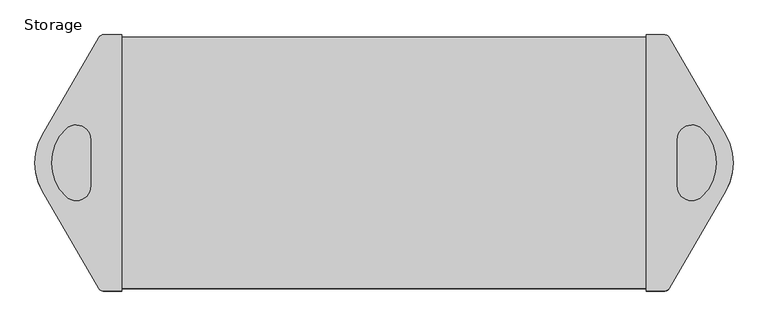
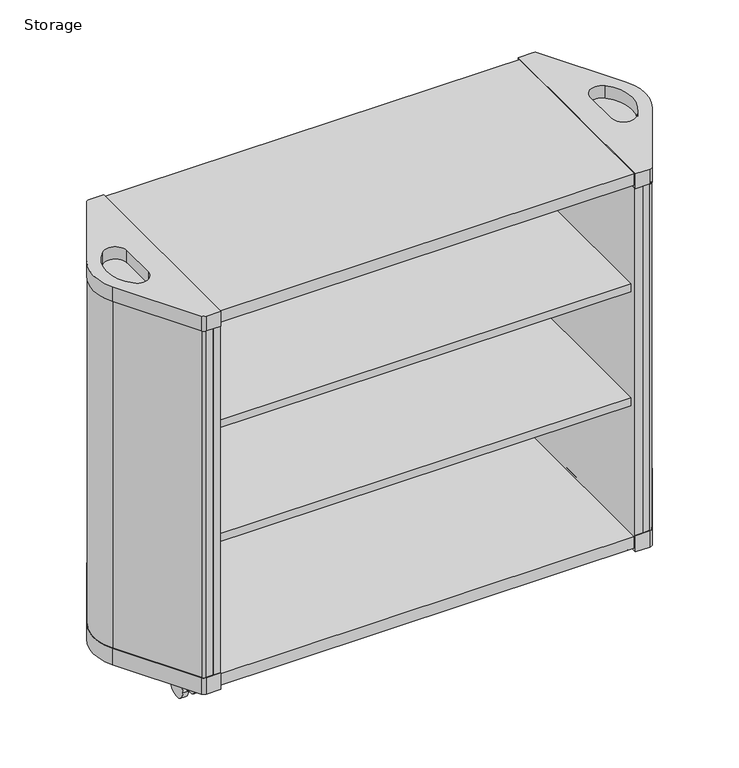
"""IFC4 building model written with IfcOpenShell, lengths in millimetres: furniture geometry, SmithSystem_AM_Storage_Education_Flowform_Mobile_Straight : Storage."""

from ifc_helpers import new_model, si_unit, point, frame, frame_2d, origin, place, context, project, spatial, polyline, circle_curve, trimmed, segment, composite_curve, outline, extrude, source, transform, mapped, element, save
from ifc_brep_helpers import plane_surface, cylinder_surface, revolved_surface, advanced_brep


def storage_578cdf4a(model_context):
    return source(origin(), model_context, "Body", "SolidModel", [
        extrude(outline(composite_curve([segment(trimmed(circle_curve(frame_2d((134.7820195, -171.5072311)), 6.576466), [point((141.3584855, -171.5072311))], [point((128.2055535, -171.5072311))], False, "CARTESIAN"), True, "CONTINUOUS"), segment(trimmed(circle_curve(frame_2d((134.7820195, -171.5072311)), 6.576466), [point((128.2055535, -171.5072311))], [point((141.3584855, -171.5072311))], False, "CARTESIAN"), True, "CONTINUOUS")], self_intersect=False)), frame((0.0, 0.0, 37.9317354), z_axis=(0.0, 0.0, 1.0), x_axis=(1.0, 0.0, 0.0)), (0.0, 0.0, 1.0), 16.5527297),
        extrude(outline(composite_curve([segment(polyline([(-131.1895304, 25.5644515), (-181.9895304, 25.5644515)]), True, "CONTINUOUS"), segment(trimmed(circle_curve(frame_2d((-156.5895304, 25.5644515)), 25.4), [point((-181.9895304, 25.5644515))], [point((-131.1895304, 25.5644515))], False, "CARTESIAN"), True, "CONTINUOUS")], self_intersect=False)), frame((122.9803848, 0.0, 0.0), z_axis=(1.0, 0.0, 0.0), x_axis=(0.0, 1.0, 0.0)), (0.0, 0.0, 1.0), 21.3732957),
        extrude(outline(composite_curve([segment(trimmed(circle_curve(frame_2d((-156.5895304, 25.5644515)), 25.4), [point((-181.9895304, 25.5644515))], [point((-131.1895304, 25.5644515))], False, "CARTESIAN"), True, "CONTINUOUS"), segment(trimmed(circle_curve(frame_2d((-156.5895304, 25.5644515)), 25.4), [point((-131.1895304, 25.5644515))], [point((-181.9895304, 25.5644515))], False, "CARTESIAN"), True, "CONTINUOUS")], self_intersect=False)), frame((112.6050169, 0.0, 0.0), z_axis=(1.0, 0.0, 0.0), x_axis=(0.0, 1.0, 0.0)), (0.0, 0.0, 1.0), 12.6986635),
        extrude(outline(composite_curve([segment(trimmed(circle_curve(frame_2d((-156.5895304, 25.5644515)), 25.4), [point((-181.9895304, 25.5644515))], [point((-131.1895304, 25.5644515))], False, "CARTESIAN"), True, "CONTINUOUS"), segment(trimmed(circle_curve(frame_2d((-156.5895304, 25.5644515)), 25.4), [point((-131.1895304, 25.5644515))], [point((-181.9895304, 25.5644515))], False, "CARTESIAN"), True, "CONTINUOUS")], self_intersect=False)), frame((144.3536805, 0.0, 0.0), z_axis=(1.0, 0.0, 0.0), x_axis=(0.0, 1.0, 0.0)), (0.0, 0.0, 1.0), 12.7259148),
        extrude(outline(composite_curve([segment(trimmed(circle_curve(frame_2d((1207.7844849, -171.5072311)), 6.576466), [point((1201.2080189, -171.5072311))], [point((1214.3609509, -171.5072311))], False, "CARTESIAN"), True, "CONTINUOUS"), segment(trimmed(circle_curve(frame_2d((1207.7844849, -171.5072311)), 6.576466), [point((1214.3609509, -171.5072311))], [point((1201.2080189, -171.5072311))], False, "CARTESIAN"), True, "CONTINUOUS")], self_intersect=False)), frame((0.0, 0.0, 37.9317354), z_axis=(0.0, 0.0, 1.0), x_axis=(1.0, 0.0, 0.0)), (0.0, 0.0, 1.0), 16.5527297),
        extrude(outline(composite_curve([segment(polyline([(-131.1895304, 25.5644515), (-181.9895304, 25.5644515)]), True, "CONTINUOUS"), segment(trimmed(circle_curve(frame_2d((-156.5895304, 25.5644515)), 25.4), [point((-181.9895304, 25.5644515))], [point((-131.1895304, 25.5644515))], False, "CARTESIAN"), True, "CONTINUOUS")], self_intersect=False)), frame((1198.212824, 0.0, 0.0), z_axis=(1.0, 0.0, 0.0), x_axis=(0.0, 1.0, 0.0)), (0.0, 0.0, 1.0), 21.3732957),
        extrude(outline(composite_curve([segment(trimmed(circle_curve(frame_2d((-156.5895304, 25.5644515)), 25.4), [point((-181.9895304, 25.5644515))], [point((-131.1895304, 25.5644515))], False, "CARTESIAN"), True, "CONTINUOUS"), segment(trimmed(circle_curve(frame_2d((-156.5895304, 25.5644515)), 25.4), [point((-131.1895304, 25.5644515))], [point((-181.9895304, 25.5644515))], False, "CARTESIAN"), True, "CONTINUOUS")], self_intersect=False)), frame((1217.262824, 0.0, 0.0), z_axis=(1.0, 0.0, 0.0), x_axis=(0.0, 1.0, 0.0)), (0.0, 0.0, 1.0), 12.6986635),
        extrude(outline(composite_curve([segment(trimmed(circle_curve(frame_2d((-156.5895304, 25.5644515)), 25.4), [point((-181.9895304, 25.5644515))], [point((-131.1895304, 25.5644515))], False, "CARTESIAN"), True, "CONTINUOUS"), segment(trimmed(circle_curve(frame_2d((-156.5895304, 25.5644515)), 25.4), [point((-131.1895304, 25.5644515))], [point((-181.9895304, 25.5644515))], False, "CARTESIAN"), True, "CONTINUOUS")], self_intersect=False)), frame((1185.4869092, 0.0, 0.0), z_axis=(1.0, 0.0, 0.0), x_axis=(0.0, 1.0, 0.0)), (0.0, 0.0, 1.0), 12.7259148),
        extrude(outline(composite_curve([segment(trimmed(circle_curve(frame_2d((1207.7844849, 171.5072311)), 6.576466), [point((1201.2080189, 171.5072311))], [point((1214.3609509, 171.5072311))], False, "CARTESIAN"), True, "CONTINUOUS"), segment(trimmed(circle_curve(frame_2d((1207.7844849, 171.5072311)), 6.576466), [point((1214.3609509, 171.5072311))], [point((1201.2080189, 171.5072311))], False, "CARTESIAN"), True, "CONTINUOUS")], self_intersect=False)), frame((0.0, 0.0, 37.9317354), z_axis=(0.0, 0.0, 1.0), x_axis=(1.0, 0.0, 0.0)), (0.0, 0.0, 1.0), 16.5527297),
        extrude(outline(composite_curve([segment(trimmed(circle_curve(frame_2d((156.5895304, 25.5644515)), 25.4), [point((131.1895304, 25.5644515))], [point((181.9895304, 25.5644515))], False, "CARTESIAN"), True, "CONTINUOUS"), segment(polyline([(181.9895304, 25.5644515), (131.1895304, 25.5644515)]), True, "CONTINUOUS")], self_intersect=False)), frame((1198.212824, 0.0, 0.0), z_axis=(1.0, 0.0, 0.0), x_axis=(0.0, 1.0, 0.0)), (0.0, 0.0, 1.0), 21.3732957),
        extrude(outline(composite_curve([segment(trimmed(circle_curve(frame_2d((156.5895304, 25.5644515)), 25.4), [point((181.9895304, 25.5644515))], [point((131.1895304, 25.5644515))], False, "CARTESIAN"), True, "CONTINUOUS"), segment(trimmed(circle_curve(frame_2d((156.5895304, 25.5644515)), 25.4), [point((131.1895304, 25.5644515))], [point((181.9895304, 25.5644515))], False, "CARTESIAN"), True, "CONTINUOUS")], self_intersect=False)), frame((1217.262824, 0.0, 0.0), z_axis=(1.0, 0.0, 0.0), x_axis=(0.0, 1.0, 0.0)), (0.0, 0.0, 1.0), 12.6986635),
        extrude(outline(composite_curve([segment(trimmed(circle_curve(frame_2d((156.5895304, 25.5644515)), 25.4), [point((181.9895304, 25.5644515))], [point((131.1895304, 25.5644515))], False, "CARTESIAN"), True, "CONTINUOUS"), segment(trimmed(circle_curve(frame_2d((156.5895304, 25.5644515)), 25.4), [point((131.1895304, 25.5644515))], [point((181.9895304, 25.5644515))], False, "CARTESIAN"), True, "CONTINUOUS")], self_intersect=False)), frame((1185.4869092, 0.0, 0.0), z_axis=(1.0, 0.0, 0.0), x_axis=(0.0, 1.0, 0.0)), (0.0, 0.0, 1.0), 12.7259148),
        extrude(outline(composite_curve([segment(trimmed(circle_curve(frame_2d((133.9640518, 171.5072311)), 6.576466), [point((127.3875858, 171.5072311))], [point((140.5405178, 171.5072311))], False, "CARTESIAN"), True, "CONTINUOUS"), segment(trimmed(circle_curve(frame_2d((133.9640518, 171.5072311)), 6.576466), [point((140.5405178, 171.5072311))], [point((127.3875858, 171.5072311))], False, "CARTESIAN"), True, "CONTINUOUS")], self_intersect=False)), frame((0.0, 0.0, 37.9317354), z_axis=(0.0, 0.0, 1.0), x_axis=(1.0, 0.0, 0.0)), (0.0, 0.0, 1.0), 16.5527297),
        extrude(outline(composite_curve([segment(trimmed(circle_curve(frame_2d((156.5895304, 25.5644515)), 25.4), [point((131.1895304, 25.5644515))], [point((181.9895304, 25.5644515))], False, "CARTESIAN"), True, "CONTINUOUS"), segment(polyline([(181.9895304, 25.5644515), (131.1895304, 25.5644515)]), True, "CONTINUOUS")], self_intersect=False)), frame((124.3923909, 0.0, 0.0), z_axis=(1.0, 0.0, 0.0), x_axis=(0.0, 1.0, 0.0)), (0.0, 0.0, 1.0), 21.3732957),
        extrude(outline(composite_curve([segment(trimmed(circle_curve(frame_2d((156.5895304, 25.5644515)), 25.4), [point((181.9895304, 25.5644515))], [point((131.1895304, 25.5644515))], False, "CARTESIAN"), True, "CONTINUOUS"), segment(trimmed(circle_curve(frame_2d((156.5895304, 25.5644515)), 25.4), [point((131.1895304, 25.5644515))], [point((181.9895304, 25.5644515))], False, "CARTESIAN"), True, "CONTINUOUS")], self_intersect=False)), frame((143.4423909, 0.0, 0.0), z_axis=(1.0, 0.0, 0.0), x_axis=(0.0, 1.0, 0.0)), (0.0, 0.0, 1.0), 12.6986635),
        extrude(outline(composite_curve([segment(trimmed(circle_curve(frame_2d((156.5895304, 25.5644515)), 25.4), [point((181.9895304, 25.5644515))], [point((131.1895304, 25.5644515))], False, "CARTESIAN"), True, "CONTINUOUS"), segment(trimmed(circle_curve(frame_2d((156.5895304, 25.5644515)), 25.4), [point((131.1895304, 25.5644515))], [point((181.9895304, 25.5644515))], False, "CARTESIAN"), True, "CONTINUOUS")], self_intersect=False)), frame((111.6664761, 0.0, 0.0), z_axis=(1.0, 0.0, 0.0), x_axis=(0.0, 1.0, 0.0)), (0.0, 0.0, 1.0), 12.7259148),
        extrude(outline(polyline([(1212.6341417, 241.3001326), (1212.6341417, 228.5999693), (128.8461125, 228.5999693), (128.8461125, 241.3001326), (1212.6341417, 241.3001326)])), frame((0.0, 0.0, 90.6031906), z_axis=(0.0, 0.0, 1.0), x_axis=(1.0, 0.0, 0.0)), (0.0, 0.0, 1.0), 902.2719612),
        extrude(outline(polyline([(167.0369457, 244.840177), (167.0369457, -244.88987), (149.7853176, -244.88987), (149.7853176, 244.840177), (167.0369457, 244.840177)])), frame((0.0, 0.0, 90.8895346), z_axis=(0.0, 0.0, 1.0), x_axis=(1.0, 0.0, 0.0)), (0.0, 0.0, 1.0), 895.6982103),
        extrude(outline(polyline([(1173.5217743, 244.840177), (1192.7811868, 244.840177), (1192.7811868, -244.88987), (1173.5217743, -244.88987), (1173.5217743, 244.840177)])), frame((0.0, 0.0, 90.8895346), z_axis=(0.0, 0.0, 1.0), x_axis=(1.0, 0.0, 0.0)), (0.0, 0.0, 1.0), 895.6982103),
        extrude(outline(polyline([(1212.6341417, 228.5999693), (1212.6341417, -228.6000307), (129.9323628, -228.6000307), (129.9323628, 228.5999693), (1212.6341417, 228.5999693)])), frame((0.0, 0.0, 712.124338), z_axis=(0.0, 0.0, 1.0), x_axis=(1.0, 0.0, 0.0)), (0.0, 0.0, 1.0), 20.2438225),
        extrude(outline(polyline([(1212.6341417, 228.5999693), (1212.6341417, -228.6000307), (129.9323628, -228.6000307), (129.9323628, 228.5999693), (1212.6341417, 228.5999693)])), frame((0.0, 0.0, 420.024338), z_axis=(0.0, 0.0, 1.0), x_axis=(1.0, 0.0, 0.0)), (0.0, 0.0, 1.0), 20.2438225),
        extrude(outline(composite_curve([segment(polyline([(16.0272634, 53.34), (124.0236202, 240.395177)]), True, "CONTINUOUS"), segment(trimmed(circle_curve(frame_2d((131.7225861, 235.950177)), 8.89), [point((124.0236202, 240.395177))], [point((131.7225861, 244.840177))], False, "CARTESIAN"), True, "CONTINUOUS"), segment(polyline([(131.7225861, 244.840177), (149.7853176, 244.840177), (149.7853176, -244.840177), (131.7225861, -244.840177)]), True, "CONTINUOUS"), segment(trimmed(circle_curve(frame_2d((131.7225861, -235.950177)), 8.89), [point((131.7225861, -244.840177))], [point((124.0236202, -240.395177))], False, "CARTESIAN"), True, "CONTINUOUS"), segment(polyline([(124.0236202, -240.395177), (16.0272634, -53.34)]), True, "CONTINUOUS"), segment(trimmed(circle_curve(frame_2d((108.4148535, 0.0)), 106.68), [point((16.0272634, -53.34))], [point((16.0272634, 53.34))], False, "CARTESIAN"), True, "CONTINUOUS")], self_intersect=False)), frame((0.0, 0.0, 96.3183094), z_axis=(0.0, 0.0, 1.0), x_axis=(1.0, 0.0, 0.0)), (0.0, 0.0, 1.0), 890.2694355),
        extrude(outline(composite_curve([segment(trimmed(circle_curve(frame_2d((1232.1438666, 0.0)), 106.68), [point((1324.5314566, 53.34))], [point((1324.5314566, -53.34))], False, "CARTESIAN"), True, "CONTINUOUS"), segment(polyline([(1324.5314566, -53.34), (1216.5350999, -240.395177)]), True, "CONTINUOUS"), segment(trimmed(circle_curve(frame_2d((1208.836134, -235.950177)), 8.89), [point((1216.5350999, -240.395177))], [point((1208.836134, -244.840177))], False, "CARTESIAN"), True, "CONTINUOUS"), segment(polyline([(1208.836134, -244.840177), (1192.7853532, -244.840177), (1192.7853532, 244.840177), (1208.836134, 244.840177)]), True, "CONTINUOUS"), segment(trimmed(circle_curve(frame_2d((1208.836134, 235.950177)), 8.89), [point((1208.836134, 244.840177))], [point((1216.5350999, 240.395177))], False, "CARTESIAN"), True, "CONTINUOUS"), segment(polyline([(1216.5350999, 240.395177), (1324.5314566, 53.34)]), True, "CONTINUOUS")], self_intersect=False)), frame((0.0, 0.0, 96.3183094), z_axis=(0.0, 0.0, 1.0), x_axis=(1.0, 0.0, 0.0)), (0.0, 0.0, 1.0), 890.2694355),
        extrude(outline(polyline([(1205.7244718, 241.3001326), (1205.7244718, -241.2714837), (128.8461125, -241.2714837), (128.8461125, 241.3001326), (1205.7244718, 241.3001326)])), frame((0.0, 0.0, 992.8751518), z_axis=(0.0, 0.0, 1.0), x_axis=(1.0, 0.0, 0.0)), (0.0, 0.0, 1.0), 29.8768827),
        extrude(outline(polyline([(1205.7244718, 241.3001326), (1205.7244718, -241.2714837), (128.8461125, -241.2714837), (128.8461125, 241.3001326), (1205.7244718, 241.3001326)])), frame((0.0, 0.0, 61.0126518), z_axis=(0.0, 0.0, 1.0), x_axis=(1.0, 0.0, 0.0)), (0.0, 0.0, 1.0), 29.8768827),
        advanced_brep(
        [(167.0369457, -246.110177, 1024.6124588), (167.0369457, 246.110177, 1024.6124588), (131.7225861, 246.110177, 1024.6124588), (122.9237679, 241.030177, 1024.6124588), (14.9274112, 53.975, 1024.6124588), (14.9274112, -53.975, 1024.6124588), (122.9237679, -241.030177, 1024.6124588), (131.7225861, -246.110177, 1024.6124588), (107.4810818, 45.0001045, 1024.6124588), (107.4810818, -44.477882, 1024.6124588), (60.2929233, -64.7300915, 1024.6124588), (60.3982884, 65.252305, 1024.6124588), (167.0369457, -246.110177, 986.5877449), (131.7225861, -246.110177, 986.5877449), (122.9237679, -241.030177, 986.5877449), (14.9274112, -53.975, 986.5877449), (14.9274112, 53.975, 986.5877449), (122.9237679, 241.030177, 986.5877449), (131.7225861, 246.110177, 986.5877449), (167.0369457, 246.110177, 986.5877449), (107.4810818, -44.477882, 992.8751518), (107.4810818, 45.0001045, 992.8751518), (60.3982884, 65.252305, 992.8751518), (60.2929233, -64.7300915, 992.8751518)],
        [
            (0, 1),
            (1, 2),
            (2, 3, circle_curve(frame((131.7225861, 235.950177, 1024.6124588), z_axis=(0.0, 0.0, 1.0), x_axis=(1.0, 0.0, 0.0)), 10.16)),
            (3, 4),
            (4, 5, circle_curve(frame((108.4148535, 0.0, 1024.6124588), z_axis=(0.0, 0.0, 1.0), x_axis=(1.0, 0.0, 0.0)), 107.95)),
            (5, 6),
            (6, 7, circle_curve(frame((131.7225861, -235.950177, 1024.6124588), z_axis=(0.0, 0.0, 1.0), x_axis=(1.0, 0.0, 0.0)), 10.16)),
            (7, 0),
            (8, 9),
            (9, 10, circle_curve(frame((79.5410818, -44.477882, 1024.6124588), z_axis=(0.0, 0.0, -1.0), x_axis=(-1.0, 0.0, 0.0)), 27.94)),
            (10, 11, circle_curve(frame((122.0145184, 0.2111172, 1024.6124588), z_axis=(0.0, 0.0, -1.0), x_axis=(-1.0, 0.0, 0.0)), 89.5930572)),
            (11, 8, circle_curve(frame((79.5840427, 45.0001045, 1024.6124588), z_axis=(0.0, 0.0, -1.0), x_axis=(-1.0, 0.0, 0.0)), 27.8970391)),
            (12, 13),
            (13, 14, circle_curve(frame((131.7225861, -235.950177, 986.5877449), z_axis=(0.0, 0.0, -1.0), x_axis=(1.0, 0.0, 0.0)), 10.16)),
            (14, 15),
            (15, 16, circle_curve(frame((108.4148535, 0.0, 986.5877449), z_axis=(0.0, 0.0, -1.0), x_axis=(1.0, 0.0, 0.0)), 107.95)),
            (16, 17),
            (17, 18, circle_curve(frame((131.7225861, 235.950177, 986.5877449), z_axis=(0.0, 0.0, -1.0), x_axis=(1.0, 0.0, 0.0)), 10.16)),
            (18, 19),
            (19, 12),
            (0, 12),
            (19, 1),
            (18, 2),
            (17, 3),
            (16, 4),
            (15, 5),
            (14, 6),
            (13, 7),
            (20, 21),
            (21, 22, circle_curve(frame((79.5840427, 45.0001045, 992.8751518), z_axis=(0.0, 0.0, 1.0), x_axis=(-1.0, 0.0, 0.0)), 27.8970391)),
            (22, 23, circle_curve(frame((122.0145184, 0.2111172, 992.8751518), z_axis=(0.0, 0.0, 1.0), x_axis=(-1.0, 0.0, 0.0)), 89.5930572)),
            (23, 20, circle_curve(frame((79.5410818, -44.477882, 992.8751518), z_axis=(0.0, 0.0, 1.0), x_axis=(-1.0, 0.0, 0.0)), 27.94)),
            (20, 9),
            (8, 21),
            (11, 22),
            (10, 23),
        ],
        [
            plane_surface(frame((167.0369457, 244.8027471, 1024.6124588), z_axis=(0.0, 0.0, 1.0), x_axis=(0.0, 1.0, 0.0))),
            plane_surface(frame((167.0369457, 244.8027471, 986.5877449), z_axis=(0.0, 0.0, -1.0), x_axis=(0.0, -1.0, 0.0))),
            plane_surface(frame((167.0369457, -246.110177, 1024.6124588), z_axis=(1.0, 0.0, 0.0), x_axis=(0.0, 0.0, -1.0))),
            plane_surface(frame((167.0369457, 246.110177, 1024.6124588), z_axis=(0.0, 1.0, 0.0), x_axis=(0.0, 0.0, -1.0))),
            cylinder_surface(frame((131.7225861, 235.950177, 986.5877449), z_axis=(0.0, 0.0, 1.0), x_axis=(1.0, 0.0, 0.0)), 10.16),
            plane_surface(frame((122.9237679, 241.030177, 1024.6124588), z_axis=(-0.8660254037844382, 0.500000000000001, 0.0), x_axis=(0.0, 0.0, -1.0))),
            cylinder_surface(frame((108.4148535, 0.0, 986.5877449), z_axis=(0.0, 0.0, 1.0), x_axis=(1.0, 0.0, 0.0)), 107.95),
            plane_surface(frame((14.9274112, -53.975, 1024.6124588), z_axis=(-0.8660254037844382, -0.500000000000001, 0.0), x_axis=(0.0, 0.0, -1.0))),
            cylinder_surface(frame((131.7225861, -235.950177, 986.5877449), z_axis=(0.0, 0.0, 1.0), x_axis=(1.0, 0.0, 0.0)), 10.16),
            plane_surface(frame((131.7225861, -246.110177, 1024.6124588), z_axis=(0.0, -1.0, 0.0), x_axis=(0.0, 0.0, -1.0))),
            plane_surface(frame((1288.9577382, -44.477882, 992.8751518), z_axis=(0.0, 0.0, 1.0), x_axis=(0.0, -1.0, 0.0))),
            plane_surface(frame((107.4810818, -44.477882, 1061.2441284), z_axis=(-1.0, 0.0, 0.0), x_axis=(0.0, 0.0, -1.0))),
            revolved_surface(polyline([(51.6870036, 45.0001045, 1024.6124588), (51.6870036, 45.0001045, 992.8751518)]), (79.5840427, 45.0001045, 0.0), (0.0, 0.0, 1.0)),
            revolved_surface(polyline([(32.421461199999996, 0.2111172, 1024.6124588), (32.421461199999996, 0.2111172, 992.8751518)]), (122.0145184, 0.2111172, 0.0), (0.0, 0.0, 1.0)),
            revolved_surface(polyline([(51.6010818, -44.477882, 1024.6124588), (51.6010818, -44.477882, 992.8751518)]), (79.5410818, -44.477882, 0.0), (0.0, 0.0, 1.0)),
        ],
        [
            (0, [[1, 2, 3, 4, 5, 6, 7, 8], [9, 10, 11, 12]]),
            (1, [[13, 14, 15, 16, 17, 18, 19, 20]]),
            (2, [[-1, 21, -20, 22]]),
            (3, [[-2, -22, -19, 23]]),
            (4, [[-3, -23, -18, 24]]),
            (5, [[-4, -24, -17, 25]]),
            (6, [[-5, -25, -16, 26]]),
            (7, [[-6, -26, -15, 27]]),
            (8, [[-7, -27, -14, 28]]),
            (9, [[-8, -28, -13, -21]]),
            (10, [[29, 30, 31, 32]]),
            (11, [[-29, 33, -9, 34]]),
            (12, [[-30, -34, -12, 35]]),
            (13, [[-31, -35, -11, 36]]),
            (14, [[-32, -36, -10, -33]]),
        ],
    ),
        advanced_brep(
        [(1173.5217743, -246.110177, 1024.6124588), (1208.836134, -246.110177, 1024.6124588), (1217.6349521, -241.030177, 1024.6124588), (1325.6313089, -53.975, 1024.6124588), (1325.6313089, 53.975, 1024.6124588), (1217.6349521, 241.030177, 1024.6124588), (1208.836134, 246.110177, 1024.6124588), (1173.5217743, 246.110177, 1024.6124588), (1280.2658967, -64.7300915, 1024.6124588), (1233.0777382, -44.477882, 1024.6124588), (1233.0777382, 45.0001045, 1024.6124588), (1280.1605315, 65.252305, 1024.6124588), (1173.5217743, -246.110177, 986.5877449), (1173.5217743, 246.110177, 986.5877449), (1208.836134, 246.110177, 986.5877449), (1217.6349521, 241.030177, 986.5877449), (1325.6313089, 53.975, 986.5877449), (1325.6313089, -53.975, 986.5877449), (1217.6349521, -241.030177, 986.5877449), (1208.836134, -246.110177, 986.5877449), (1233.0777382, -44.477882, 992.8751518), (1280.2658967, -64.7300915, 992.8751518), (1280.1605315, 65.252305, 992.8751518), (1233.0777382, 45.0001045, 992.8751518)],
        [
            (0, 1),
            (1, 2, circle_curve(frame((1208.836134, -235.950177, 1024.6124588), z_axis=(0.0, 0.0, 1.0), x_axis=(-1.0, 0.0, 0.0)), 10.16)),
            (2, 3),
            (3, 4, circle_curve(frame((1232.1438666, 0.0, 1024.6124588), z_axis=(0.0, 0.0, 1.0), x_axis=(-1.0, 0.0, 0.0)), 107.95)),
            (4, 5),
            (5, 6, circle_curve(frame((1208.836134, 235.950177, 1024.6124588), z_axis=(0.0, 0.0, 1.0), x_axis=(-1.0, 0.0, 0.0)), 10.16)),
            (6, 7),
            (7, 0),
            (8, 9, circle_curve(frame((1261.0177382, -44.477882, 1024.6124588), z_axis=(0.0, 0.0, -1.0), x_axis=(1.0, 0.0, 0.0)), 27.94)),
            (9, 10),
            (10, 11, circle_curve(frame((1260.9747773, 45.0001045, 1024.6124588), z_axis=(0.0, 0.0, -1.0), x_axis=(1.0, 0.0, 0.0)), 27.8970391)),
            (11, 8, circle_curve(frame((1218.5443016, 0.2111172, 1024.6124588), z_axis=(0.0, 0.0, -1.0), x_axis=(1.0, 0.0, 0.0)), 89.5930572)),
            (12, 13),
            (13, 14),
            (14, 15, circle_curve(frame((1208.836134, 235.950177, 986.5877449), z_axis=(0.0, 0.0, -1.0), x_axis=(-1.0, 0.0, 0.0)), 10.16)),
            (15, 16),
            (16, 17, circle_curve(frame((1232.1438666, 0.0, 986.5877449), z_axis=(0.0, 0.0, -1.0), x_axis=(-1.0, 0.0, 0.0)), 107.95)),
            (17, 18),
            (18, 19, circle_curve(frame((1208.836134, -235.950177, 986.5877449), z_axis=(0.0, 0.0, -1.0), x_axis=(-1.0, 0.0, 0.0)), 10.16)),
            (19, 12),
            (0, 12),
            (19, 1),
            (18, 2),
            (17, 3),
            (16, 4),
            (15, 5),
            (14, 6),
            (13, 7),
            (20, 21, circle_curve(frame((1261.0177382, -44.477882, 992.8751518), z_axis=(0.0, 0.0, 1.0), x_axis=(1.0, 0.0, 0.0)), 27.94)),
            (21, 22, circle_curve(frame((1218.5443016, 0.2111172, 992.8751518), z_axis=(0.0, 0.0, 1.0), x_axis=(1.0, 0.0, 0.0)), 89.5930572)),
            (22, 23, circle_curve(frame((1260.9747773, 45.0001045, 992.8751518), z_axis=(0.0, 0.0, 1.0), x_axis=(1.0, 0.0, 0.0)), 27.8970391)),
            (23, 20),
            (20, 9),
            (8, 21),
            (11, 22),
            (10, 23),
        ],
        [
            plane_surface(frame((167.0369457, 244.8027471, 1024.6124588), z_axis=(0.0, 0.0, 1.0), x_axis=(0.0, 1.0, 0.0))),
            plane_surface(frame((167.0369457, 244.8027471, 986.5877449), z_axis=(0.0, 0.0, -1.0), x_axis=(0.0, -1.0, 0.0))),
            plane_surface(frame((1173.5217743, -246.110177, 1024.6124588), z_axis=(0.0, -1.0, 0.0), x_axis=(0.0, 0.0, -1.0))),
            cylinder_surface(frame((1208.836134, -235.950177, 0.0), z_axis=(0.0, 0.0, 1.0), x_axis=(-1.0, 0.0, 0.0)), 10.16),
            plane_surface(frame((1217.6349521, -241.030177, 1024.6124588), z_axis=(0.866025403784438, -0.5000000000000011, 0.0), x_axis=(0.0, 0.0, -1.0))),
            cylinder_surface(frame((1232.1438666, 0.0, 0.0), z_axis=(0.0, 0.0, 1.0), x_axis=(-1.0, 0.0, 0.0)), 107.95),
            plane_surface(frame((1325.6313089, 53.975, 1024.6124588), z_axis=(0.8660254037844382, 0.5000000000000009, 0.0), x_axis=(0.0, 0.0, -1.0))),
            cylinder_surface(frame((1208.836134, 235.950177, 0.0), z_axis=(0.0, 0.0, 1.0), x_axis=(-1.0, 0.0, 0.0)), 10.16),
            plane_surface(frame((1208.836134, 246.110177, 1024.6124588), z_axis=(0.0, 1.0, 0.0), x_axis=(0.0, 0.0, -1.0))),
            plane_surface(frame((1173.5217743, 246.110177, 1024.6124588), z_axis=(-1.0, 0.0, 0.0), x_axis=(0.0, 0.0, -1.0))),
            plane_surface(frame((1288.9577382, -44.477882, 992.8751518), z_axis=(0.0, 0.0, 1.0), x_axis=(0.0, -1.0, 0.0))),
            revolved_surface(polyline([(1288.9577382, -44.477882, 1024.6124588), (1288.9577382, -44.477882, 992.8751518)]), (1261.0177382, -44.477882, 992.8751518), (0.0, 0.0, 1.0)),
            revolved_surface(polyline([(1308.1373588, 0.2111172, 1024.6124588), (1308.1373588, 0.2111172, 992.8751518)]), (1218.5443016, 0.2111172, 992.8751518), (0.0, 0.0, 1.0)),
            revolved_surface(polyline([(1288.8718164, 45.0001045, 1024.6124588), (1288.8718164, 45.0001045, 992.8751518)]), (1260.9747773, 45.0001045, 992.8751518), (0.0, 0.0, 1.0)),
            plane_surface(frame((1233.0777382, 45.0001045, 1061.2441284), z_axis=(1.0, 0.0, 0.0), x_axis=(0.0, 0.0, -1.0))),
        ],
        [
            (0, [[1, 2, 3, 4, 5, 6, 7, 8], [9, 10, 11, 12]]),
            (1, [[13, 14, 15, 16, 17, 18, 19, 20]]),
            (2, [[-1, 21, -20, 22]]),
            (3, [[-2, -22, -19, 23]]),
            (4, [[-3, -23, -18, 24]]),
            (5, [[-4, -24, -17, 25]]),
            (6, [[-5, -25, -16, 26]]),
            (7, [[-6, -26, -15, 27]]),
            (8, [[-7, -27, -14, 28]]),
            (9, [[-8, -28, -13, -21]]),
            (10, [[29, 30, 31, 32]]),
            (11, [[-29, 33, -9, 34]]),
            (12, [[-30, -34, -12, 35]]),
            (13, [[-31, -35, -11, 36]]),
            (14, [[-32, -36, -10, -33]]),
        ],
    ),
        extrude(outline(composite_curve([segment(polyline([(167.0369457, -246.110177), (131.7225861, -246.110177)]), True, "CONTINUOUS"), segment(trimmed(circle_curve(frame_2d((131.7225861, -235.950177)), 10.16), [point((131.7225861, -246.110177))], [point((122.9237679, -241.030177))], False, "CARTESIAN"), True, "CONTINUOUS"), segment(polyline([(122.9237679, -241.030177), (14.9274112, -53.975)]), True, "CONTINUOUS"), segment(trimmed(circle_curve(frame_2d((108.4148535, 0.0)), 107.95), [point((14.9274112, -53.975))], [point((14.9274112, 53.975))], False, "CARTESIAN"), True, "CONTINUOUS"), segment(polyline([(14.9274112, 53.975), (122.9237679, 241.030177)]), True, "CONTINUOUS"), segment(trimmed(circle_curve(frame_2d((131.7225861, 235.950177)), 10.16), [point((122.9237679, 241.030177))], [point((131.7225861, 246.110177))], False, "CARTESIAN"), True, "CONTINUOUS"), segment(polyline([(131.7225861, 246.110177), (167.0369457, 246.110177), (167.0369457, -246.110177)]), True, "CONTINUOUS")], self_intersect=False)), frame((0.0, 0.0, 54.484465), z_axis=(0.0, 0.0, 1.0), x_axis=(1.0, 0.0, 0.0)), (0.0, 0.0, 1.0), 41.8338443),
        extrude(outline(composite_curve([segment(polyline([(1173.5217743, -246.110177), (1173.5217743, 246.110177), (1208.836134, 246.110177)]), True, "CONTINUOUS"), segment(trimmed(circle_curve(frame_2d((1208.836134, 235.950177)), 10.16), [point((1208.836134, 246.110177))], [point((1217.6349521, 241.030177))], False, "CARTESIAN"), True, "CONTINUOUS"), segment(polyline([(1217.6349521, 241.030177), (1325.6313089, 53.975)]), True, "CONTINUOUS"), segment(trimmed(circle_curve(frame_2d((1232.1438666, 0.0)), 107.95), [point((1325.6313089, 53.975))], [point((1325.6313089, -53.975))], False, "CARTESIAN"), True, "CONTINUOUS"), segment(polyline([(1325.6313089, -53.975), (1217.6349521, -241.030177)]), True, "CONTINUOUS"), segment(trimmed(circle_curve(frame_2d((1208.836134, -235.950177)), 10.16), [point((1217.6349521, -241.030177))], [point((1208.836134, -246.110177))], False, "CARTESIAN"), True, "CONTINUOUS"), segment(polyline([(1208.836134, -246.110177), (1173.5217743, -246.110177)]), True, "CONTINUOUS")], self_intersect=False)), frame((0.0, 0.0, 54.484465), z_axis=(0.0, 0.0, 1.0), x_axis=(1.0, 0.0, 0.0)), (0.0, 0.0, 1.0), 41.8338443),
    ])


if __name__ == "__main__":
    model = new_model("IFC4")
    model_context = context("Model", 3, world=origin())
    ifc_project = project(units=[si_unit("LENGTHUNIT", "METRE", prefix="MILLI")], contexts=[model_context])
    site = spatial("IfcSite", under=ifc_project)
    building = spatial("IfcBuilding", under=site)
    placement = place(None, origin())
    storage_shape = storage_578cdf4a(model_context)
    element("IfcFurniture", 1, ObjectType="SmithSystem_AM_Storage_Education_Flowform_Mobile_Straight : Storage", at=placement, inside=building, context=model_context, shape_type="MappedRepresentation", body=[
        mapped(storage_shape, transform((0.0, 0.0, 0.0), x_axis=(1.0, 0.0, 0.0), y_axis=(0.0, 1.0, 0.0), z_axis=(0.0, 0.0, 1.0))),
    ])
    save(model, "model.ifc")
